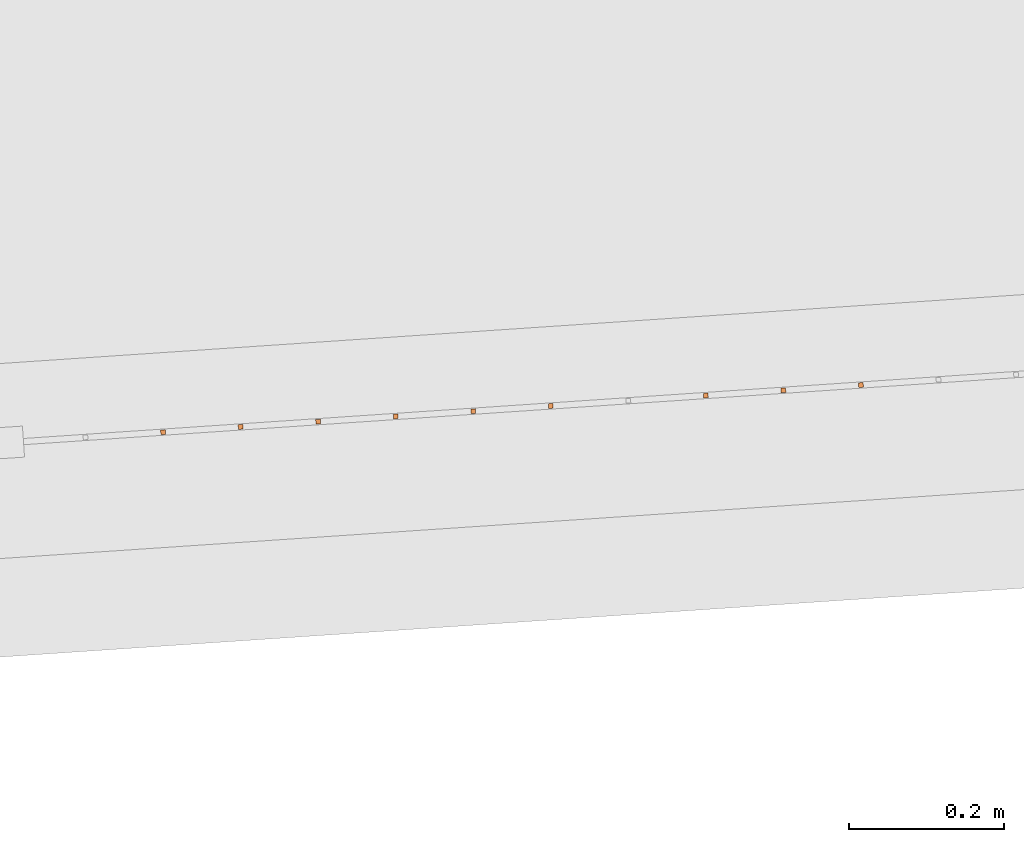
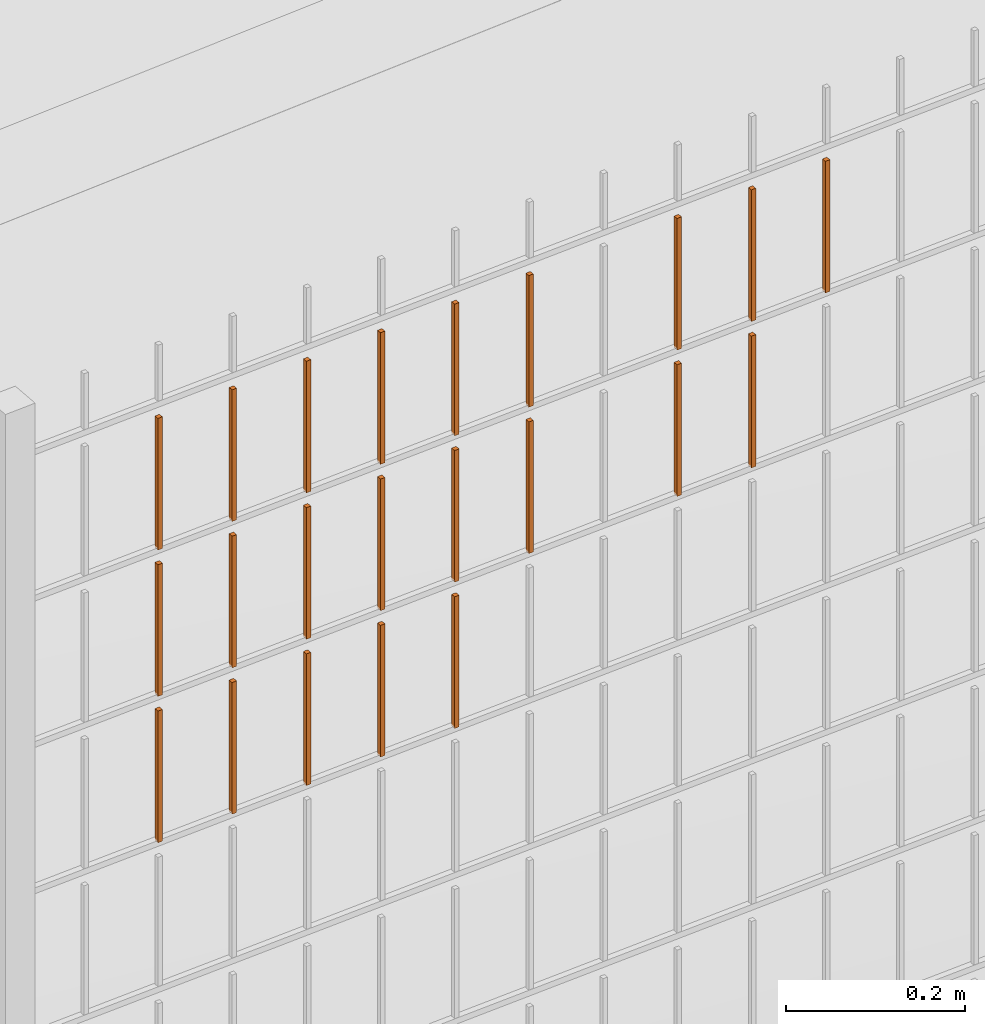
# One storey, part 397 of 1809: 22 proxies, 1 element without a shape of its own.
"""IFC2X3 building model written with IfcOpenShell, lengths in millimetres."""

from ifc_helpers import new_model, entity, si_unit, converted_unit, derived_unit, money_unit, direction, frame, origin_with_axes, place, context, subcontext, project, spatial, faceted_brep, source, transform, mapped, material, type_object, element, aggregate, save


model = new_model("IFC2X3")

# Units and contexts
model_context = context("Model", 3, precision=0.01, world=origin_with_axes(), true_north=direction((0.0, 1.0)))
body_context = subcontext(model_context, "Body", "Model", "MODEL_VIEW")
ifc_project = project(units=[si_unit("LENGTHUNIT", "METRE", prefix="MILLI"), si_unit("AREAUNIT", "SQUARE_METRE"), si_unit("VOLUMEUNIT", "CUBIC_METRE"), converted_unit("PLANEANGLEUNIT", "DEGREE", entity("IfcPlaneAngleMeasure", 0.0174532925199), si_unit("PLANEANGLEUNIT", "RADIAN"), dimensions=[0, 0, 0, 0, 0, 0, 0]), si_unit("SOLIDANGLEUNIT", "STERADIAN"), money_unit("EUR"), converted_unit("TIMEUNIT", "Year", entity("IfcTimeMeasure", 31556926.0), si_unit("TIMEUNIT", "SECOND"), dimensions=[0, 0, 1, 0, 0, 0, 0]), si_unit("MASSUNIT", "GRAM", prefix="KILO"), si_unit("THERMODYNAMICTEMPERATUREUNIT", "DEGREE_CELSIUS"), si_unit("LUMINOUSINTENSITYUNIT", "LUMEN"), si_unit("ENERGYUNIT", "JOULE", prefix="MEGA"), derived_unit("THERMALCONDUCTANCEUNIT", [(si_unit("POWERUNIT", "WATT"), 1), (si_unit("LENGTHUNIT", "METRE"), -1), (si_unit("THERMODYNAMICTEMPERATUREUNIT", "KELVIN"), -1)]), derived_unit("SPECIFICHEATCAPACITYUNIT", [(si_unit("ENERGYUNIT", "JOULE"), 1), (si_unit("MASSUNIT", "GRAM", prefix="KILO"), -1), (si_unit("THERMODYNAMICTEMPERATUREUNIT", "KELVIN"), -1)]), derived_unit("MASSDENSITYUNIT", [(si_unit("MASSUNIT", "GRAM", prefix="KILO"), 1), (si_unit("VOLUMEUNIT", "CUBIC_METRE"), -1)])], contexts=[model_context])

# Site, building, storey
site_placement = place(None, origin_with_axes())
site = spatial("IfcSite", under=ifc_project, at=site_placement, Name="Politse- ja Piirivalveameti ning Päästeameti ühishoone", CompositionType="ELEMENT")
building_placement = place(site_placement, origin_with_axes())
building = spatial("IfcBuilding", under=site, at=building_placement, Name="Politse- ja Piirivalveameti ning Päästeameti ühishoone", CompositionType="ELEMENT")
storey_placement = place(building_placement, origin_with_axes())
storey = spatial("IfcBuildingStorey", under=building, at=storey_placement, Name="Esimene korrus", CompositionType="ELEMENT", Elevation=0.0)

# Proxies
building_element_proxy_type_1 = type_object("IfcBuildingElementProxyType", Name="Railing Type", PredefinedType="NOTDEFINED")
proxy_1_placement = place(storey_placement, frame((89252.001212, -29183.4766571, 203.661247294), z_axis=(0.0, 0.0, 1.0), x_axis=(1.0, 0.0, 0.0)))
proxy_1 = element("IfcBuildingElementProxy", 1, at=proxy_1_placement, inside=storey, type_object=building_element_proxy_type_1, Name="PIIRDEAED")
ifc_material = material(Name="ET-03_Raud")
building_element_proxy_type_2 = type_object("IfcBuildingElementProxyType", Name="IfcBuildingElementProxy", PredefinedType="NOTDEFINED")
shared_shape_1 = source(origin_with_axes(), body_context, "Body", "Brep", [
    faceted_brep([(3.0, 3.0, -0.000752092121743), (-3.0, 3.0, -0.000752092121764), (-3.0, 3.0, 179.99926046), (3.0, 3.0, 179.99926046), (3.0, -3.0, 0.000752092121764), (-3.0, -3.0, 0.000752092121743), (-3.0, -3.0, 180.000764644), (3.0, -3.0, 180.000764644)], [[[0, 1, 2, 3]], [[0, 4, 5, 1]], [[1, 5, 6, 2]], [[3, 2, 6, 7]], [[4, 0, 3, 7]], [[5, 4, 7, 6]]]),
])
proxy_2_placement = place(proxy_1_placement, frame((-11899.573005, -18101.5460107, 1424.24439616), z_axis=(0.0, 0.0, 1.0), x_axis=(1.0, 0.0, 0.0)))
proxy_2 = element("IfcBuildingElementProxy", 2, at=proxy_2_placement, type_object=building_element_proxy_type_2, material=ifc_material, Name="BALUSTER - 001", context=body_context, shape_type="MappedRepresentation", body=[
    mapped(shared_shape_1, transform((0.0, 0.0, 0.0), x_axis=(-0.0673926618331, 0.997726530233, 0.0), y_axis=(-0.997726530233, -0.0673926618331, 0.0), z_axis=(0.0, 0.0, 1.0))),
])
shared_shape_2 = source(origin_with_axes(), body_context, "Body", "Brep", [
    faceted_brep([(3.0, 3.0, -0.000752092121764), (-3.0, 3.0, -0.000752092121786), (-3.0, 3.0, 179.99926046), (3.0, 3.0, 179.99926046), (3.0, -3.0, 0.000752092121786), (-3.0, -3.0, 0.000752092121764), (-3.0, -3.0, 180.000764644), (3.0, -3.0, 180.000764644)], [[[0, 1, 2, 3]], [[0, 4, 5, 1]], [[1, 5, 6, 2]], [[3, 2, 6, 7]], [[4, 0, 3, 7]], [[5, 4, 7, 6]]]),
])
proxy_3_placement = place(proxy_1_placement, frame((-12099.118311, -18115.0245431, 1624.19425668), z_axis=(0.0, 0.0, 1.0), x_axis=(1.0, 0.0, 0.0)))
proxy_3 = element("IfcBuildingElementProxy", 3, at=proxy_3_placement, type_object=building_element_proxy_type_2, material=ifc_material, Name="BALUSTER - 001", context=body_context, shape_type="MappedRepresentation", body=[
    mapped(shared_shape_2, transform((0.0, 0.0, 0.0), x_axis=(-0.0673926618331, 0.997726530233, 0.0), y_axis=(-0.997726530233, -0.0673926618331, 0.0), z_axis=(0.0, 0.0, 1.0))),
])
shared_shape_3 = source(origin_with_axes(), body_context, "Body", "Brep", [
    faceted_brep([(3.0, 3.0, -0.000752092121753), (-3.0, 3.0, -0.000752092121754), (-3.0, 3.0, 179.99926046), (3.0, 3.0, 179.99926046), (3.0, -3.0, 0.000752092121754), (-3.0, -3.0, 0.000752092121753), (-3.0, -3.0, 180.000764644), (3.0, -3.0, 180.000764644)], [[[0, 1, 2, 3]], [[0, 4, 5, 1]], [[1, 5, 6, 2]], [[3, 2, 6, 7]], [[4, 0, 3, 7]], [[5, 4, 7, 6]]]),
])
proxy_4_placement = place(proxy_1_placement, frame((-11799.8003519, -18094.8067445, 1624.26946589), z_axis=(0.0, 0.0, 1.0), x_axis=(1.0, 0.0, 0.0)))
proxy_4 = element("IfcBuildingElementProxy", 4, at=proxy_4_placement, type_object=building_element_proxy_type_2, material=ifc_material, Name="BALUSTER - 001", context=body_context, shape_type="MappedRepresentation", body=[
    mapped(shared_shape_3, transform((0.0, 0.0, 0.0), x_axis=(-0.0673926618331, 0.997726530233, 0.0), y_axis=(-0.997726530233, -0.0673926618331, 0.0), z_axis=(0.0, 0.0, 1.0))),
])
shared_shape_4 = source(origin_with_axes(), body_context, "Body", "Brep", [
    faceted_brep([(3.0, 3.0, -0.000752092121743), (-3.0, 3.0, -0.000752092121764), (-3.0, 3.0, 179.99926046), (3.0, 3.0, 179.99926046), (3.0, -3.0, 0.000752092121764), (-3.0, -3.0, 0.000752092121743), (-3.0, -3.0, 180.000764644), (3.0, -3.0, 180.000764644)], [[[0, 1, 2, 3]], [[0, 4, 5, 1]], [[1, 5, 6, 2]], [[3, 2, 6, 7]], [[4, 0, 3, 7]], [[5, 4, 7, 6]]]),
])
proxy_5_placement = place(proxy_1_placement, frame((-11899.573005, -18101.5460107, 1824.24439616), z_axis=(0.0, 0.0, 1.0), x_axis=(1.0, 0.0, 0.0)))
proxy_5 = element("IfcBuildingElementProxy", 5, at=proxy_5_placement, type_object=building_element_proxy_type_2, material=ifc_material, Name="BALUSTER - 001", context=body_context, shape_type="MappedRepresentation", body=[
    mapped(shared_shape_4, transform((0.0, 0.0, 0.0), x_axis=(-0.0673926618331, 0.997726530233, 0.0), y_axis=(-0.997726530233, -0.0673926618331, 0.0), z_axis=(0.0, 0.0, 1.0))),
])
shared_shape_5 = source(origin_with_axes(), body_context, "Body", "Brep", [
    faceted_brep([(3.0, 3.0, -0.000752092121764), (-3.0, 3.0, -0.000752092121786), (-3.0, 3.0, 179.99926046), (3.0, 3.0, 179.99926046), (3.0, -3.0, 0.000752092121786), (-3.0, -3.0, 0.000752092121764), (-3.0, -3.0, 180.000764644), (3.0, -3.0, 180.000764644)], [[[0, 1, 2, 3]], [[0, 4, 5, 1]], [[1, 5, 6, 2]], [[3, 2, 6, 7]], [[4, 0, 3, 7]], [[5, 4, 7, 6]]]),
])
proxy_6_placement = place(proxy_1_placement, frame((-11300.9370868, -18061.1104136, 1824.39481458), z_axis=(0.0, 0.0, 1.0), x_axis=(1.0, 0.0, 0.0)))
proxy_6 = element("IfcBuildingElementProxy", 6, at=proxy_6_placement, type_object=building_element_proxy_type_2, material=ifc_material, Name="BALUSTER - 001", context=body_context, shape_type="MappedRepresentation", body=[
    mapped(shared_shape_5, transform((0.0, 0.0, 0.0), x_axis=(-0.0673926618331, 0.997726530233, 0.0), y_axis=(-0.997726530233, -0.0673926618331, 0.0), z_axis=(0.0, 0.0, 1.0))),
])
shared_shape_6 = source(origin_with_axes(), body_context, "Body", "Brep", [
    faceted_brep([(3.0, 3.0, -0.000752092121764), (-3.0, 3.0, -0.000752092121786), (-3.0, 3.0, 179.99926046), (3.0, 3.0, 179.99926046), (3.0, -3.0, 0.000752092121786), (-3.0, -3.0, 0.000752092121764), (-3.0, -3.0, 180.000764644), (3.0, -3.0, 180.000764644)], [[[0, 1, 2, 3]], [[0, 4, 5, 1]], [[1, 5, 6, 2]], [[3, 2, 6, 7]], [[4, 0, 3, 7]], [[5, 4, 7, 6]]]),
])
proxy_7_placement = place(proxy_1_placement, frame((-11400.7097398, -18067.8496798, 1824.36974484), z_axis=(0.0, 0.0, 1.0), x_axis=(1.0, 0.0, 0.0)))
proxy_7 = element("IfcBuildingElementProxy", 7, at=proxy_7_placement, type_object=building_element_proxy_type_2, material=ifc_material, Name="BALUSTER - 001", context=body_context, shape_type="MappedRepresentation", body=[
    mapped(shared_shape_6, transform((0.0, 0.0, 0.0), x_axis=(-0.0673926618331, 0.997726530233, 0.0), y_axis=(-0.997726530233, -0.0673926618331, 0.0), z_axis=(0.0, 0.0, 1.0))),
])
proxy_8_placement = place(proxy_1_placement, frame((-11999.345658, -18108.2852769, 1824.21932642), z_axis=(0.0, 0.0, 1.0), x_axis=(1.0, 0.0, 0.0)))
proxy_8 = element("IfcBuildingElementProxy", 8, at=proxy_8_placement, type_object=building_element_proxy_type_2, material=ifc_material, Name="BALUSTER - 001", context=body_context, shape_type="MappedRepresentation", body=[
    mapped(shared_shape_6, transform((0.0, 0.0, 0.0), x_axis=(-0.0673926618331, 0.997726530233, 0.0), y_axis=(-0.997726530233, -0.0673926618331, 0.0), z_axis=(0.0, 0.0, 1.0))),
])
shared_shape_7 = source(origin_with_axes(), body_context, "Body", "Brep", [
    faceted_brep([(3.0, 3.0, -0.000752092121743), (-3.0, 3.0, -0.000752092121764), (-3.0, 3.0, 179.99926046), (3.0, 3.0, 179.99926046), (3.0, -3.0, 0.000752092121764), (-3.0, -3.0, 0.000752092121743), (-3.0, -3.0, 180.000764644), (3.0, -3.0, 180.000764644)], [[[0, 1, 2, 3]], [[0, 4, 5, 1]], [[1, 5, 6, 2]], [[3, 2, 6, 7]], [[4, 0, 3, 7]], [[5, 4, 7, 6]]]),
])
proxy_9_placement = place(proxy_1_placement, frame((-11201.1644338, -18054.3711474, 1824.41988432), z_axis=(0.0, 0.0, 1.0), x_axis=(1.0, 0.0, 0.0)))
proxy_9 = element("IfcBuildingElementProxy", 9, at=proxy_9_placement, type_object=building_element_proxy_type_2, material=ifc_material, Name="BALUSTER - 001", context=body_context, shape_type="MappedRepresentation", body=[
    mapped(shared_shape_7, transform((0.0, 0.0, 0.0), x_axis=(-0.0673926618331, 0.997726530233, 0.0), y_axis=(-0.997726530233, -0.0673926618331, 0.0), z_axis=(0.0, 0.0, 1.0))),
])
shared_shape_8 = source(origin_with_axes(), body_context, "Body", "Brep", [
    faceted_brep([(3.0, 3.0, -0.000752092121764), (-3.0, 3.0, -0.000752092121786), (-3.0, 3.0, 179.99926046), (3.0, 3.0, 179.99926046), (3.0, -3.0, 0.000752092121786), (-3.0, -3.0, 0.000752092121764), (-3.0, -3.0, 180.000764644), (3.0, -3.0, 180.000764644)], [[[0, 1, 2, 3]], [[0, 4, 5, 1]], [[1, 5, 6, 2]], [[3, 2, 6, 7]], [[4, 0, 3, 7]], [[5, 4, 7, 6]]]),
])
proxy_10_placement = place(proxy_1_placement, frame((-11700.0276989, -18088.0674784, 1424.29453563), z_axis=(0.0, 0.0, 1.0), x_axis=(1.0, 0.0, 0.0)))
proxy_10 = element("IfcBuildingElementProxy", 10, at=proxy_10_placement, type_object=building_element_proxy_type_2, material=ifc_material, Name="BALUSTER - 001", context=body_context, shape_type="MappedRepresentation", body=[
    mapped(shared_shape_8, transform((0.0, 0.0, 0.0), x_axis=(-0.0673926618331, 0.997726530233, 0.0), y_axis=(-0.997726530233, -0.0673926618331, 0.0), z_axis=(0.0, 0.0, 1.0))),
])
proxy_11_placement = place(proxy_1_placement, frame((-11700.0276989, -18088.0674784, 1624.29453563), z_axis=(0.0, 0.0, 1.0), x_axis=(1.0, 0.0, 0.0)))
proxy_11 = element("IfcBuildingElementProxy", 11, at=proxy_11_placement, type_object=building_element_proxy_type_2, material=ifc_material, Name="BALUSTER - 001", context=body_context, shape_type="MappedRepresentation", body=[
    mapped(shared_shape_8, transform((0.0, 0.0, 0.0), x_axis=(-0.0673926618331, 0.997726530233, 0.0), y_axis=(-0.997726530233, -0.0673926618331, 0.0), z_axis=(0.0, 0.0, 1.0))),
])
shared_shape_9 = source(origin_with_axes(), body_context, "Body", "Brep", [
    faceted_brep([(3.0, 3.0, -0.000752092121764), (-3.0, 3.0, -0.000752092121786), (-3.0, 3.0, 179.99926046), (3.0, 3.0, 179.99926046), (3.0, -3.0, 0.000752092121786), (-3.0, -3.0, 0.000752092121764), (-3.0, -3.0, 180.000764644), (3.0, -3.0, 180.000764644)], [[[0, 1, 2, 3]], [[0, 4, 5, 1]], [[1, 5, 6, 2]], [[3, 2, 6, 7]], [[4, 0, 3, 7]], [[5, 4, 7, 6]]]),
])
proxy_12_placement = place(proxy_1_placement, frame((-11300.9370868, -18061.1104136, 1624.39481458), z_axis=(0.0, 0.0, 1.0), x_axis=(1.0, 0.0, 0.0)))
proxy_12 = element("IfcBuildingElementProxy", 12, at=proxy_12_placement, type_object=building_element_proxy_type_2, material=ifc_material, Name="BALUSTER - 001", context=body_context, shape_type="MappedRepresentation", body=[
    mapped(shared_shape_9, transform((0.0, 0.0, 0.0), x_axis=(-0.0673926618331, 0.997726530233, 0.0), y_axis=(-0.997726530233, -0.0673926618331, 0.0), z_axis=(0.0, 0.0, 1.0))),
])
shared_shape_10 = source(origin_with_axes(), body_context, "Body", "Brep", [
    faceted_brep([(3.0, 3.0, -0.000752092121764), (-3.0, 3.0, -0.000752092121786), (-3.0, 3.0, 179.99926046), (3.0, 3.0, 179.99926046), (3.0, -3.0, 0.000752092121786), (-3.0, -3.0, 0.000752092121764), (-3.0, -3.0, 180.000764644), (3.0, -3.0, 180.000764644)], [[[0, 1, 2, 3]], [[0, 4, 5, 1]], [[1, 5, 6, 2]], [[3, 2, 6, 7]], [[4, 0, 3, 7]], [[5, 4, 7, 6]]]),
])
proxy_13_placement = place(proxy_1_placement, frame((-11999.345658, -18108.2852769, 1424.21932642), z_axis=(0.0, 0.0, 1.0), x_axis=(1.0, 0.0, 0.0)))
proxy_13 = element("IfcBuildingElementProxy", 13, at=proxy_13_placement, type_object=building_element_proxy_type_2, material=ifc_material, Name="BALUSTER - 001", context=body_context, shape_type="MappedRepresentation", body=[
    mapped(shared_shape_10, transform((0.0, 0.0, 0.0), x_axis=(-0.0673926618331, 0.997726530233, 0.0), y_axis=(-0.997726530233, -0.0673926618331, 0.0), z_axis=(0.0, 0.0, 1.0))),
])
proxy_14_placement = place(proxy_1_placement, frame((-11400.7097398, -18067.8496798, 1624.36974484), z_axis=(0.0, 0.0, 1.0), x_axis=(1.0, 0.0, 0.0)))
proxy_14 = element("IfcBuildingElementProxy", 14, at=proxy_14_placement, type_object=building_element_proxy_type_2, material=ifc_material, Name="BALUSTER - 001", context=body_context, shape_type="MappedRepresentation", body=[
    mapped(shared_shape_10, transform((0.0, 0.0, 0.0), x_axis=(-0.0673926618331, 0.997726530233, 0.0), y_axis=(-0.997726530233, -0.0673926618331, 0.0), z_axis=(0.0, 0.0, 1.0))),
])
proxy_15_placement = place(proxy_1_placement, frame((-11999.345658, -18108.2852769, 1624.21932642), z_axis=(0.0, 0.0, 1.0), x_axis=(1.0, 0.0, 0.0)))
proxy_15 = element("IfcBuildingElementProxy", 15, at=proxy_15_placement, type_object=building_element_proxy_type_2, material=ifc_material, Name="BALUSTER - 001", context=body_context, shape_type="MappedRepresentation", body=[
    mapped(shared_shape_10, transform((0.0, 0.0, 0.0), x_axis=(-0.0673926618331, 0.997726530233, 0.0), y_axis=(-0.997726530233, -0.0673926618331, 0.0), z_axis=(0.0, 0.0, 1.0))),
])
shared_shape_11 = source(origin_with_axes(), body_context, "Body", "Brep", [
    faceted_brep([(3.0, 3.0, -0.000752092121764), (-3.0, 3.0, -0.000752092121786), (-3.0, 3.0, 179.99926046), (3.0, 3.0, 179.99926046), (3.0, -3.0, 0.000752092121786), (-3.0, -3.0, 0.000752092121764), (-3.0, -3.0, 180.000764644), (3.0, -3.0, 180.000764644)], [[[0, 1, 2, 3]], [[0, 4, 5, 1]], [[1, 5, 6, 2]], [[3, 2, 6, 7]], [[4, 0, 3, 7]], [[5, 4, 7, 6]]]),
])
proxy_16_placement = place(proxy_1_placement, frame((-11700.0276989, -18088.0674784, 1824.29453563), z_axis=(0.0, 0.0, 1.0), x_axis=(1.0, 0.0, 0.0)))
proxy_16 = element("IfcBuildingElementProxy", 16, at=proxy_16_placement, type_object=building_element_proxy_type_2, material=ifc_material, Name="BALUSTER - 001", context=body_context, shape_type="MappedRepresentation", body=[
    mapped(shared_shape_11, transform((0.0, 0.0, 0.0), x_axis=(-0.0673926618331, 0.997726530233, 0.0), y_axis=(-0.997726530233, -0.0673926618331, 0.0), z_axis=(0.0, 0.0, 1.0))),
])
shared_shape_12 = source(origin_with_axes(), body_context, "Body", "Brep", [
    faceted_brep([(3.0, 3.0, -0.000752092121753), (-3.0, 3.0, -0.000752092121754), (-3.0, 3.0, 179.99926046), (3.0, 3.0, 179.99926046), (3.0, -3.0, 0.000752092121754), (-3.0, -3.0, 0.000752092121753), (-3.0, -3.0, 180.000764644), (3.0, -3.0, 180.000764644)], [[[0, 1, 2, 3]], [[0, 4, 5, 1]], [[1, 5, 6, 2]], [[3, 2, 6, 7]], [[4, 0, 3, 7]], [[5, 4, 7, 6]]]),
])
proxy_17_placement = place(proxy_1_placement, frame((-11799.8003519, -18094.8067445, 1824.26946589), z_axis=(0.0, 0.0, 1.0), x_axis=(1.0, 0.0, 0.0)))
proxy_17 = element("IfcBuildingElementProxy", 17, at=proxy_17_placement, type_object=building_element_proxy_type_2, material=ifc_material, Name="BALUSTER - 001", context=body_context, shape_type="MappedRepresentation", body=[
    mapped(shared_shape_12, transform((0.0, 0.0, 0.0), x_axis=(-0.0673926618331, 0.997726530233, 0.0), y_axis=(-0.997726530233, -0.0673926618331, 0.0), z_axis=(0.0, 0.0, 1.0))),
])
shared_shape_13 = source(origin_with_axes(), body_context, "Body", "Brep", [
    faceted_brep([(3.0, 3.0, -0.000752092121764), (-3.0, 3.0, -0.000752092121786), (-3.0, 3.0, 179.99926046), (3.0, 3.0, 179.99926046), (3.0, -3.0, 0.000752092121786), (-3.0, -3.0, 0.000752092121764), (-3.0, -3.0, 180.000764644), (3.0, -3.0, 180.000764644)], [[[0, 1, 2, 3]], [[0, 4, 5, 1]], [[1, 5, 6, 2]], [[3, 2, 6, 7]], [[4, 0, 3, 7]], [[5, 4, 7, 6]]]),
])
proxy_18_placement = place(proxy_1_placement, frame((-12099.118311, -18115.0245431, 1824.19425668), z_axis=(0.0, 0.0, 1.0), x_axis=(1.0, 0.0, 0.0)))
proxy_18 = element("IfcBuildingElementProxy", 18, at=proxy_18_placement, type_object=building_element_proxy_type_2, material=ifc_material, Name="BALUSTER - 001", context=body_context, shape_type="MappedRepresentation", body=[
    mapped(shared_shape_13, transform((0.0, 0.0, 0.0), x_axis=(-0.0673926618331, 0.997726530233, 0.0), y_axis=(-0.997726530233, -0.0673926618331, 0.0), z_axis=(0.0, 0.0, 1.0))),
])
shared_shape_14 = source(origin_with_axes(), body_context, "Body", "Brep", [
    faceted_brep([(3.0, 3.0, -0.000752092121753), (-3.0, 3.0, -0.000752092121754), (-3.0, 3.0, 179.99926046), (3.0, 3.0, 179.99926046), (3.0, -3.0, 0.000752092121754), (-3.0, -3.0, 0.000752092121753), (-3.0, -3.0, 180.000764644), (3.0, -3.0, 180.000764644)], [[[0, 1, 2, 3]], [[0, 4, 5, 1]], [[1, 5, 6, 2]], [[3, 2, 6, 7]], [[4, 0, 3, 7]], [[5, 4, 7, 6]]]),
])
proxy_19_placement = place(proxy_1_placement, frame((-11799.8003519, -18094.8067445, 1424.26946589), z_axis=(0.0, 0.0, 1.0), x_axis=(1.0, 0.0, 0.0)))
proxy_19 = element("IfcBuildingElementProxy", 19, at=proxy_19_placement, type_object=building_element_proxy_type_2, material=ifc_material, Name="BALUSTER - 001", context=body_context, shape_type="MappedRepresentation", body=[
    mapped(shared_shape_14, transform((0.0, 0.0, 0.0), x_axis=(-0.0673926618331, 0.997726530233, 0.0), y_axis=(-0.997726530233, -0.0673926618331, 0.0), z_axis=(0.0, 0.0, 1.0))),
])
shared_shape_15 = source(origin_with_axes(), body_context, "Body", "Brep", [
    faceted_brep([(3.0, 3.0, -0.000752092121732), (-3.0, 3.0, -0.000752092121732), (-3.0, 3.0, 179.99926046), (3.0, 3.0, 179.99926046), (3.0, -3.0, 0.000752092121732), (-3.0, -3.0, 0.000752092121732), (-3.0, -3.0, 180.000764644), (3.0, -3.0, 180.000764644)], [[[0, 1, 2, 3]], [[0, 4, 5, 1]], [[1, 5, 6, 2]], [[3, 2, 6, 7]], [[4, 0, 3, 7]], [[5, 4, 7, 6]]]),
])
proxy_20_placement = place(proxy_1_placement, frame((-11600.2550459, -18081.3282122, 1824.31960537), z_axis=(0.0, 0.0, 1.0), x_axis=(1.0, 0.0, 0.0)))
proxy_20 = element("IfcBuildingElementProxy", 20, at=proxy_20_placement, type_object=building_element_proxy_type_2, material=ifc_material, Name="BALUSTER - 001", context=body_context, shape_type="MappedRepresentation", body=[
    mapped(shared_shape_15, transform((0.0, 0.0, 0.0), x_axis=(-0.0673926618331, 0.997726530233, 0.0), y_axis=(-0.997726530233, -0.0673926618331, 0.0), z_axis=(0.0, 0.0, 1.0))),
])
shared_shape_16 = source(origin_with_axes(), body_context, "Body", "Brep", [
    faceted_brep([(3.0, 3.0, -0.000752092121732), (-3.0, 3.0, -0.000752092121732), (-3.0, 3.0, 179.99926046), (3.0, 3.0, 179.99926046), (3.0, -3.0, 0.000752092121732), (-3.0, -3.0, 0.000752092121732), (-3.0, -3.0, 180.000764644), (3.0, -3.0, 180.000764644)], [[[0, 1, 2, 3]], [[0, 4, 5, 1]], [[1, 5, 6, 2]], [[3, 2, 6, 7]], [[4, 0, 3, 7]], [[5, 4, 7, 6]]]),
])
proxy_21_placement = place(proxy_1_placement, frame((-11600.2550459, -18081.3282122, 1624.31960537), z_axis=(0.0, 0.0, 1.0), x_axis=(1.0, 0.0, 0.0)))
proxy_21 = element("IfcBuildingElementProxy", 21, at=proxy_21_placement, type_object=building_element_proxy_type_2, material=ifc_material, Name="BALUSTER - 001", context=body_context, shape_type="MappedRepresentation", body=[
    mapped(shared_shape_16, transform((0.0, 0.0, 0.0), x_axis=(-0.0673926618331, 0.997726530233, 0.0), y_axis=(-0.997726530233, -0.0673926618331, 0.0), z_axis=(0.0, 0.0, 1.0))),
])
shared_shape_17 = source(origin_with_axes(), body_context, "Body", "Brep", [
    faceted_brep([(3.0, 3.0, -0.000752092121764), (-3.0, 3.0, -0.000752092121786), (-3.0, 3.0, 179.99926046), (3.0, 3.0, 179.99926046), (3.0, -3.0, 0.000752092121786), (-3.0, -3.0, 0.000752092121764), (-3.0, -3.0, 180.000764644), (3.0, -3.0, 180.000764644)], [[[0, 1, 2, 3]], [[0, 4, 5, 1]], [[1, 5, 6, 2]], [[3, 2, 6, 7]], [[4, 0, 3, 7]], [[5, 4, 7, 6]]]),
])
proxy_22_placement = place(proxy_1_placement, frame((-12099.118311, -18115.0245431, 1424.19425668), z_axis=(0.0, 0.0, 1.0), x_axis=(1.0, 0.0, 0.0)))
proxy_22 = element("IfcBuildingElementProxy", 22, at=proxy_22_placement, type_object=building_element_proxy_type_2, material=ifc_material, Name="BALUSTER - 001", context=body_context, shape_type="MappedRepresentation", body=[
    mapped(shared_shape_17, transform((0.0, 0.0, 0.0), x_axis=(-0.0673926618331, 0.997726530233, 0.0), y_axis=(-0.997726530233, -0.0673926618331, 0.0), z_axis=(0.0, 0.0, 1.0))),
])
shared_shape_18 = source(origin_with_axes(), body_context, "Body", "Brep", [
    faceted_brep([(3.0, 3.0, -0.000752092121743), (-3.0, 3.0, -0.000752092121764), (-3.0, 3.0, 179.99926046), (3.0, 3.0, 179.99926046), (3.0, -3.0, 0.000752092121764), (-3.0, -3.0, 0.000752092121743), (-3.0, -3.0, 180.000764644), (3.0, -3.0, 180.000764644)], [[[0, 1, 2, 3]], [[0, 4, 5, 1]], [[1, 5, 6, 2]], [[3, 2, 6, 7]], [[4, 0, 3, 7]], [[5, 4, 7, 6]]]),
])
proxy_23_placement = place(proxy_1_placement, frame((-11899.573005, -18101.5460107, 1624.24439616), z_axis=(0.0, 0.0, 1.0), x_axis=(1.0, 0.0, 0.0)))
proxy_23 = element("IfcBuildingElementProxy", 23, at=proxy_23_placement, type_object=building_element_proxy_type_2, material=ifc_material, Name="BALUSTER - 001", context=body_context, shape_type="MappedRepresentation", body=[
    mapped(shared_shape_18, transform((0.0, 0.0, 0.0), x_axis=(-0.0673926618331, 0.997726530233, 0.0), y_axis=(-0.997726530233, -0.0673926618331, 0.0), z_axis=(0.0, 0.0, 1.0))),
])
aggregate(proxy_1, [proxy_10, proxy_19, proxy_2, proxy_13, proxy_22, proxy_12, proxy_14, proxy_21, proxy_11, proxy_4, proxy_23, proxy_15, proxy_3, proxy_9, proxy_6, proxy_7, proxy_20, proxy_16, proxy_17, proxy_5, proxy_8, proxy_18])

save(model, "model.ifc")
